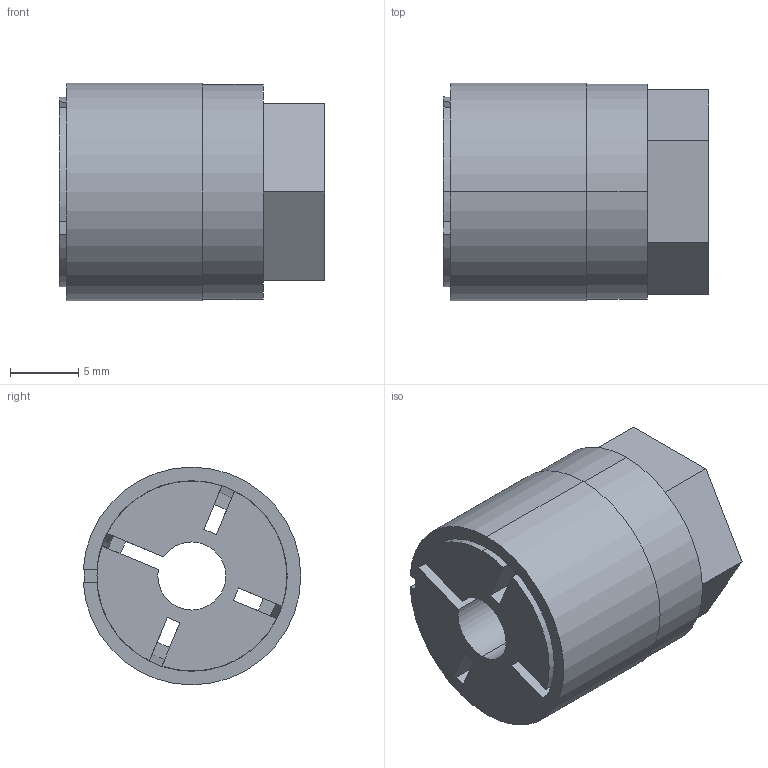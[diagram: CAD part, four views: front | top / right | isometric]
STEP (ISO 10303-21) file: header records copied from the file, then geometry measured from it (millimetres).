
FILE_DESCRIPTION (( 'STEP AP203' ), '1' );
FILE_NAME ('KBS 56 - 5 x 16.STEP', '2015-07-07T20:18:46', ( '' ), ( '' ), 'SwSTEP 2.0', 'SolidWorks 2010', '' );
FILE_SCHEMA (( 'CONFIG_CONTROL_DESIGN' ));
Length unit declared in the file: millimetre
Products named in the file (1): KBS 56 - 5 x 16
Bounding box: 19.5 x 15.98 x 16 mm (x, y, z)
Volume: 2949.8 mm3; surface area: 3637.2 mm2
Topology: 3 solids, 3 shells, 53 faces, 138 edges, 92 vertices
Faces by surface type: plane 30, cylinder 15, cone 8
Entity records: 1731 total; most frequent: CARTESIAN_POINT 320, DIRECTION 282, ORIENTED_EDGE 276, EDGE_CURVE 138, AXIS2_PLACEMENT_3D 100, VERTEX_POINT 92, VECTOR 82, LINE 82
